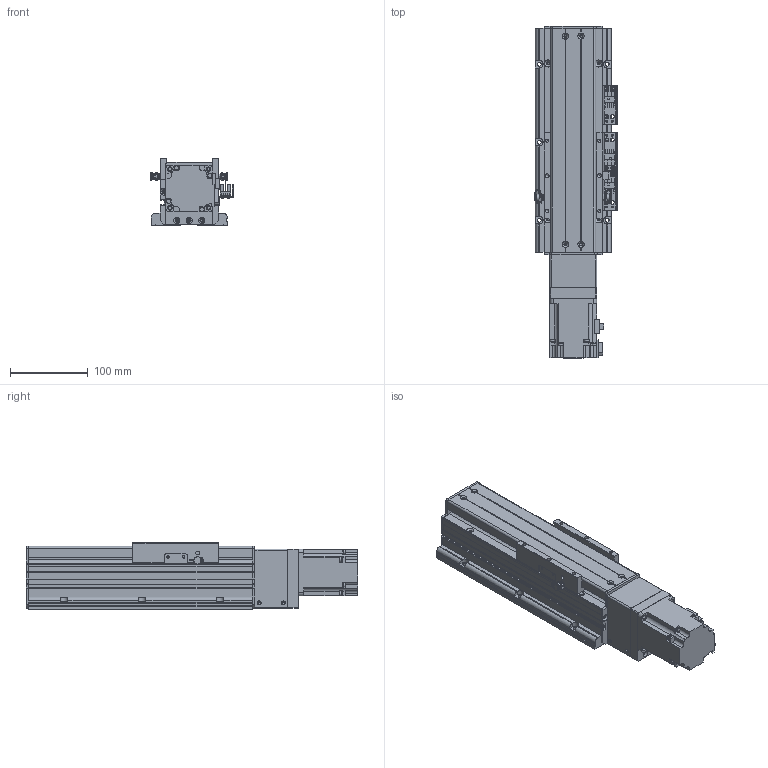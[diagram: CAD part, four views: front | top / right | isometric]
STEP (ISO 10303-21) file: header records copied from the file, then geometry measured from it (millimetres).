
FILE_DESCRIPTION(/* description */ ('MANUFACTURE'),/* implementation_level */ '2;1');
FILE_NAME(/* name */ '\\192.168.0.160\disk1\HAN SHIN Master\B-설계부문\C-표준\B-2024년\BC02-표준도면\+로봇 개선표준도면\표준 승인도 폴더 - 재작업\3D\HS Type\HS75\S-Type\HS75-S20-N1B-0100-R10.stp',/* time_stamp */ '2024-05-08T14:28:10+09:00',/* author */ ('User'),/* organization */ (''),/* preprocessor_version */ 'ST-DEVELOPER v18.1',/* originating_system */ 'Autodesk Inventor 2022',/* authorisation */ 'LIP');
FILE_SCHEMA (('AUTOMOTIVE_DESIGN { 1 0 10303 214 3 1 1 }'));
Products named in the file (28): HS75-S20-N1B-0500-R10 - 간소화; HS75 100W S BASE; UPCOVER; HS75 REAR BLOCK; SDWA-31C-10x14(00-00); HS75 FRONT BLOCK-AN; HS75 FRONT BLOCK; 7001ADF; BEARING COVER(∅15); SPACER(∅15); RN12; HS75 FRONT COVER; HS75 FRONT COVER_1; COUPLING COVER; HS75 SIDE COVER; HS75 SENSOR DOG-1; NIPPLE CAP(신규); hsr_ftht_A-M6F_grease_nipple_joint; SENSOR BRK(EE-SX674A); EE_SX674A; M3-5(렌치볼트); HG75 S MOTOR PLATE-B; HG75 S MOTOR PLATE-M; hg-kr23_; HG90STOPPER - 17L; LMKE1520 NUT; HS75 TABLE - 1BLOCK; HS75 SIDE COVER (100W, 1B)_MIR
Assembly tree (37 placements, depth 3):
  HS75-S20-N1B-0500-R10 - 간소화
    HS75 100W S BASE
    UPCOVER
    HS75 REAR BLOCK
    SDWA-31C-10x14(00-00)
    HS75 FRONT BLOCK-AN
      HS75 FRONT BLOCK
      7001ADF
      BEARING COVER(∅15)
      SPACER(∅15)
      RN12
    HS75 FRONT COVER
    HS75 FRONT COVER_1
    HG90STOPPER - 17L  x2
    COUPLING COVER
    SENSOR BRK(EE-SX674A)  x3
    EE_SX674A  x3
    hsr_ftht_A-M6F_grease_nipple_joint  x2
    NIPPLE CAP(신규)  x2
    HS75 SIDE COVER
    HS75 SENSOR DOG-1
    M3-5(렌치볼트)  x4
    HG75 S MOTOR PLATE-B
    HG75 S MOTOR PLATE-M
    hg-kr23_
    LMKE1520 NUT
    HS75 TABLE - 1BLOCK
    HS75 SIDE COVER (100W, 1B)_MIR
Bounding box: 105.96 x 425.6 x 85 mm (x, y, z)
Volume: 1349427.7 mm3; surface area: 456419.6 mm2
Topology: 59 solids, 59 shells, 2021 faces, 5515 edges, 3603 vertices
Faces by surface type: plane 1010, cylinder 703, cone 188, torus 74, sphere 38, bspline 8
Full cylindrical faces by diameter (mm): 2.013 x2, 2.459 x20, 2.85 x4, 3 x12, 3.1 x1, 3.242 x46, 3.3 x2, 3.5 x6, 4 x18, 4.134 x36, 4.5 x39, 4.917 x7, 5 x28, 5.5 x16, 5.6 x10, 5.8 x4, 5.9 x10, 6 x6, 6.05 x4, 6.45 x6, 6.5 x4, 7.2 x2, 7.5 x4, 8 x7, 9.5 x10, 10 x1, 10.8 x1, 12 x3, 14 x2, 14.4 x3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
Entity records: 58788 total; most frequent: CARTESIAN_POINT 12273, DIRECTION 9692, ORIENTED_EDGE 9262, EDGE_CURVE 4631, AXIS2_PLACEMENT_3D 3563, VERTEX_POINT 3169, LINE 2566, VECTOR 2566
